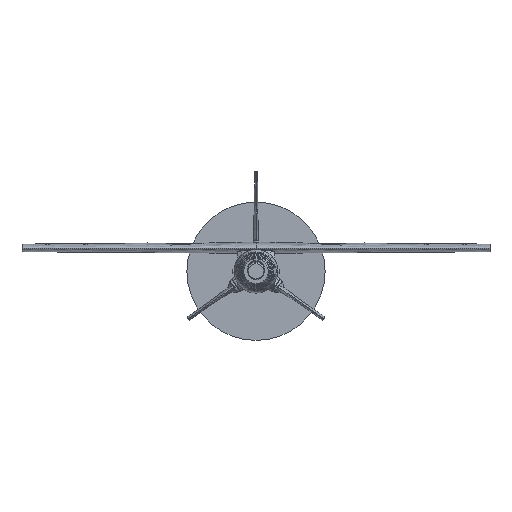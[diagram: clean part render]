
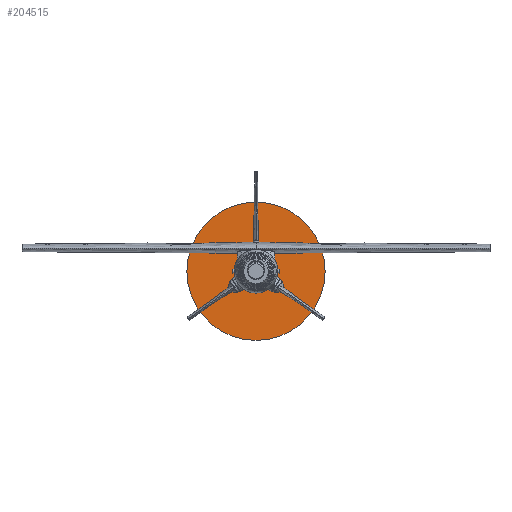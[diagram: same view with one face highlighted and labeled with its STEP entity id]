
A CAD part, left-side view. The second image highlights one B-rep face of the part: STEP entity #204515.
In plain terms, the highlighted planar face has unit normal (-1, 0, 0).
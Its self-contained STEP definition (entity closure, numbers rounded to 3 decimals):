
#204437 = CYLINDRICAL_SURFACE('',#204438,63.5);
#204438 = AXIS2_PLACEMENT_3D('',#204439,#204440,#204441);
#204439 = CARTESIAN_POINT('',(449.85,0.,0.));
#204440 = DIRECTION('',(1.,0.,0.));
#204441 = DIRECTION('',(-0.,0.,1.));
#204462 = VERTEX_POINT('',#204463);
#204463 = CARTESIAN_POINT('',(449.85,0.,63.5));
#204484 = EDGE_CURVE('',#204462,#204462,#204485,.T.);
#204485 = SURFACE_CURVE('',#204486,(#204491,#204498),.PCURVE_S1.);
#204486 = CIRCLE('',#204487,63.5);
#204487 = AXIS2_PLACEMENT_3D('',#204488,#204489,#204490);
#204488 = CARTESIAN_POINT('',(449.85,0.,0.));
#204489 = DIRECTION('',(1.,0.,0.));
#204490 = DIRECTION('',(-0.,0.,1.));
#204491 = PCURVE('',#204437,#204492);
#204492 = DEFINITIONAL_REPRESENTATION('',(#204493),#204497);
#204493 = LINE('',#204494,#204495);
#204494 = CARTESIAN_POINT('',(0.,0.));
#204495 = VECTOR('',#204496,1.);
#204496 = DIRECTION('',(1.,0.));
#204497 = ( GEOMETRIC_REPRESENTATION_CONTEXT(2) 
PARAMETRIC_REPRESENTATION_CONTEXT() REPRESENTATION_CONTEXT('2D SPACE',''
  ) );
#204498 = PCURVE('',#204499,#204504);
#204499 = PLANE('',#204500);
#204500 = AXIS2_PLACEMENT_3D('',#204501,#204502,#204503);
#204501 = CARTESIAN_POINT('',(449.85,0.,0.));
#204502 = DIRECTION('',(1.,0.,0.));
#204503 = DIRECTION('',(-0.,0.,1.));
#204504 = DEFINITIONAL_REPRESENTATION('',(#204505),#204509);
#204505 = CIRCLE('',#204506,63.5);
#204506 = AXIS2_PLACEMENT_2D('',#204507,#204508);
#204507 = CARTESIAN_POINT('',(0.,0.));
#204508 = DIRECTION('',(1.,0.));
#204509 = ( GEOMETRIC_REPRESENTATION_CONTEXT(2) 
PARAMETRIC_REPRESENTATION_CONTEXT() REPRESENTATION_CONTEXT('2D SPACE',''
  ) );
#204515 = ADVANCED_FACE('',(#204516),#204499,.F.);
#204516 = FACE_BOUND('',#204517,.T.);
#204517 = EDGE_LOOP('',(#204518));
#204518 = ORIENTED_EDGE('',*,*,#204484,.F.);
